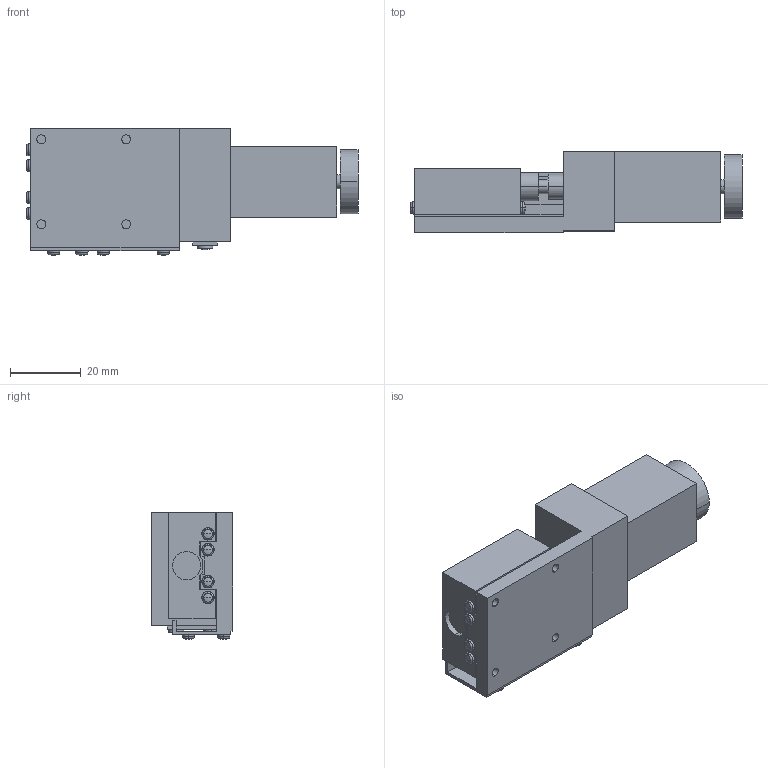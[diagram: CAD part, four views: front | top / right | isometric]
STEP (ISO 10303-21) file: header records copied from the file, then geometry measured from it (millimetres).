
FILE_DESCRIPTION (( 'STEP AP203' ), '1' );
FILE_NAME ('ALS-301-HM.STEP', '2008-04-10T09:49:12', ( '' ), ( '' ), 'SwSTEP 2.0', 'SolidWorks 2007', '' );
FILE_SCHEMA (( 'CONFIG_CONTROL_DESIGN' ));
Length unit declared in the file: millimetre
Products named in the file (3): ALS-301-HM-1; ALS-301-HM-2; ALS-301-HM
Assembly tree (2 placements, depth 2):
  ALS-301-HM
    ALS-301-HM-1
    ALS-301-HM-2
Bounding box: 93.8 x 23 x 35.8 mm (x, y, z)
Volume: 43137.8 mm3; surface area: 17179.9 mm2
Topology: 2 solids, 2 shells, 214 faces, 514 edges, 327 vertices
Faces by surface type: plane 70, cylinder 58, cone 36, torus 24, sphere 24, bspline 2
Entity records: 6935 total; most frequent: CARTESIAN_POINT 1450, DIRECTION 1188, ORIENTED_EDGE 1004, EDGE_CURVE 502, AXIS2_PLACEMENT_3D 473, VERTEX_POINT 327, EDGE_LOOP 261, CIRCLE 256
